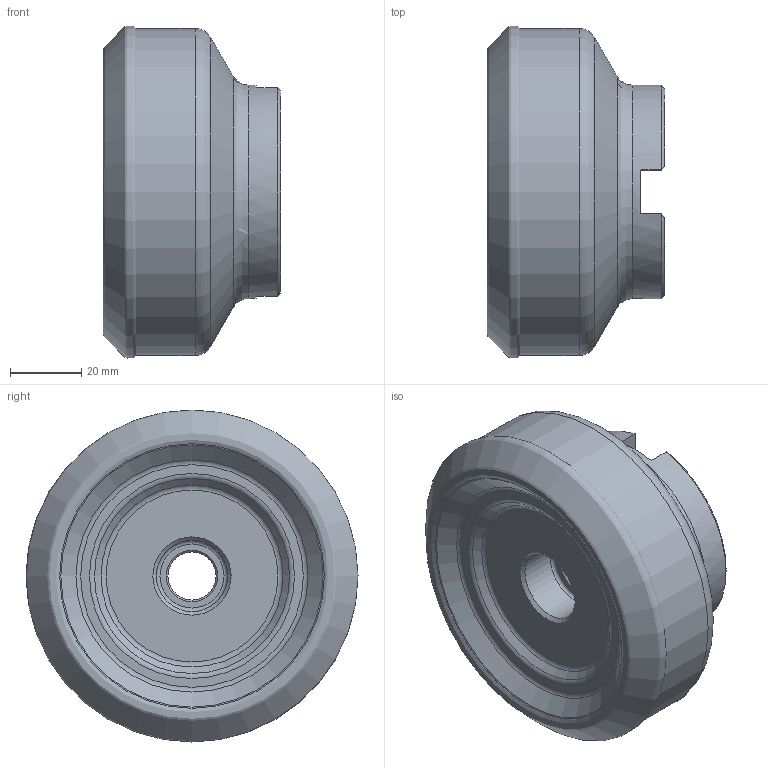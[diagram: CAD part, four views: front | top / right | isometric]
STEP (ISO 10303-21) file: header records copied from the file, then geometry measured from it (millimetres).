
FILE_DESCRIPTION(/* description */ (''),/* implementation_level */ '2;1');
FILE_NAME(/* name */ 'Stp.stp',/* time_stamp */ '2021-06-28T23:24:42+08:00',/* author */ (''),/* organization */ (''),/* preprocessor_version */ 'ST-DEVELOPER v16.7',/* originating_system */ 'SIEMENS PLM Software NX 12.0',/* authorisation */ '');
FILE_SCHEMA (('AUTOMOTIVE_DESIGN { 1 0 10303 214 3 1 1 1 }'));
Length unit declared in the file: millimetre
Products named in the file (2): SEET12T3-CF; FMA01-080-A27-SE12-06_S
Assembly tree (6 placements, depth 2):
  FMA01-080-A27-SE12-06_S
    SEET12T3-CF  x6
Bounding box: 50.02 x 93.36 x 93.36 mm (x, y, z)
Volume: 250396.7 mm3; surface area: 37341.8 mm2
Topology: 2 solids, 2 shells, 61 faces, 144 edges, 89 vertices
Faces by surface type: plane 20, torus 15, cone 14, cylinder 11, revolution 1
Full cylindrical faces by diameter (mm): 13.5 x1, 20 x1, 27 x1, 29 x1, 60 x1, 88.036 x1, 92 x1
Entity records: 1792 total; most frequent: CARTESIAN_POINT 536, DIRECTION 257, ORIENTED_EDGE 196, AXIS2_PLACEMENT_3D 116, EDGE_CURVE 98, EDGE_LOOP 94, VERTEX_POINT 75, FACE_BOUND 71
